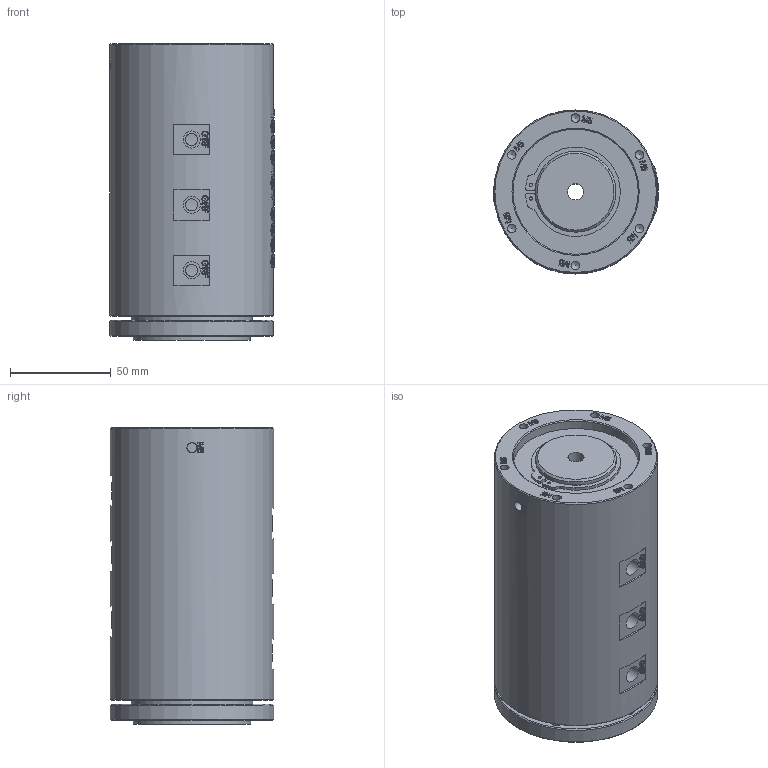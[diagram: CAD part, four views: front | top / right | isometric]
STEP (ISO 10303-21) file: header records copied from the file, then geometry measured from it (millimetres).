
FILE_DESCRIPTION(/* description */ (''),/* implementation_level */ '2;1');
FILE_NAME(/* name */ 'HY0601-3D模型.stp',/* time_stamp */ '2025-09-12T16:06:22+08:00',/* author */ (''),/* organization */ (''),/* preprocessor_version */ 'ST-DEVELOPER v16.7',/* originating_system */ 'SIEMENS PLM Software NX 12.0',/* authorisation */ '');
FILE_SCHEMA (('AUTOMOTIVE_DESIGN { 1 0 10303 214 3 1 1 1 }'));
Products named in the file (1): Admi2290F644gbxf
Bounding box: 81.61 x 81 x 147.4 mm (x, y, z)
Volume: 721304.4 mm3; surface area: 64154.8 mm2
Topology: 1 solids, 1 shells, 2126 faces, 5799 edges, 3875 vertices
Faces by surface type: extrusion 1053, plane 853, bspline 124, cylinder 84, cone 12
Full cylindrical faces by diameter (mm): 1.57 x2, 4.2 x12, 5 x2, 6 x12, 8 x1, 8.5 x12, 37.5 x1, 40 x1, 58 x1, 60 x1, 62 x1, 81 x2
Entity records: 85366 total; most frequent: CARTESIAN_POINT 40144, ORIENTED_EDGE 11366, EDGE_CURVE 5683, B_SPLINE_CURVE_WITH_KNOTS 5123, DIRECTION 4868, VERTEX_POINT 3835, EDGE_LOOP 2414, VECTOR 2356
